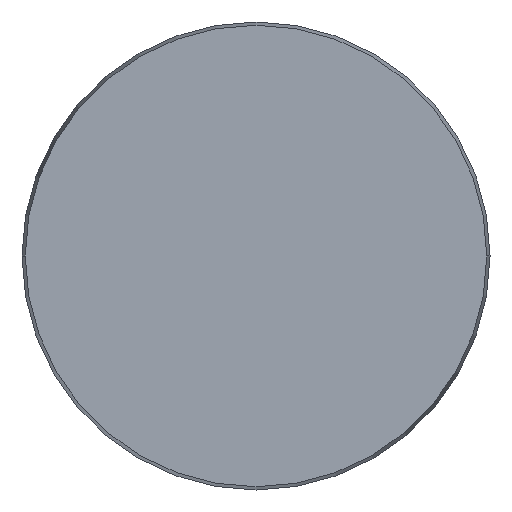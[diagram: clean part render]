
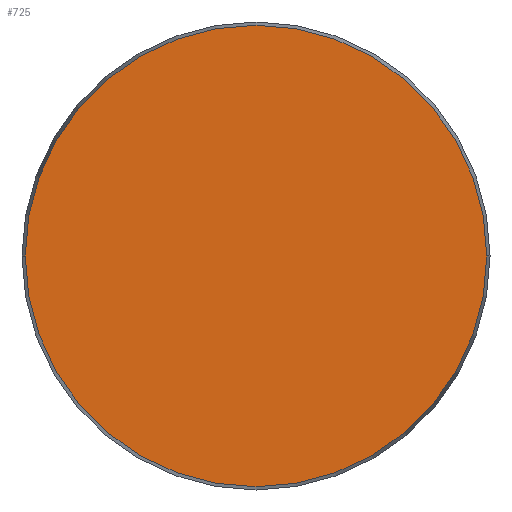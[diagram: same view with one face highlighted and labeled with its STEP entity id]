
A CAD part, front view. The second image highlights one B-rep face of the part: STEP entity #725.
In plain terms, the highlighted planar face has unit normal (0, -1, 0).
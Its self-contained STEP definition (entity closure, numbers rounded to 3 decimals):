
#50 = EDGE_CURVE ( 'NONE', #698, #179, #754, .T. ) ;
#66 = EDGE_CURVE ( 'NONE', #179, #698, #758, .T. ) ;
#123 = CARTESIAN_POINT ( 'NONE',  ( 24.65, 0., 0. ) ) ;
#128 = CARTESIAN_POINT ( 'NONE',  ( 24.65, 0., 0. ) ) ;
#147 = FACE_OUTER_BOUND ( 'NONE', #231, .T. ) ;
#149 = DIRECTION ( 'NONE',  ( 0., 1., 0. ) ) ;
#165 = PLANE ( 'NONE',  #752 ) ;
#166 = DIRECTION ( 'NONE',  ( 0., 0., 1. ) ) ;
#179 = VERTEX_POINT ( 'NONE', #180 ) ;
#180 = CARTESIAN_POINT ( 'NONE',  ( -24.65, 0., 0. ) ) ;
#231 = EDGE_LOOP ( 'NONE', ( #385, #417 ) ) ;
#277 = CARTESIAN_POINT ( 'NONE',  ( 0., 0., 0. ) ) ;
#278 = DIRECTION ( 'NONE',  ( -1., 0., 0. ) ) ;
#279 = DIRECTION ( 'NONE',  ( 0., 1., 0. ) ) ;
#287 = CARTESIAN_POINT ( 'NONE',  ( 0., 0., 0. ) ) ;
#321 = DIRECTION ( 'NONE',  ( 0., 1., 0. ) ) ;
#364 = DIRECTION ( 'NONE',  ( -1., 0., 0. ) ) ;
#385 = ORIENTED_EDGE ( 'NONE', *, *, #66, .F. ) ;
#417 = ORIENTED_EDGE ( 'NONE', *, *, #50, .F. ) ;
#698 = VERTEX_POINT ( 'NONE', #123 ) ;
#725 = ADVANCED_FACE ( '1', ( #147 ), #165, .F. ) ;
#752 = AXIS2_PLACEMENT_3D ( 'NONE', #128, #149, #166 ) ;
#754 = CIRCLE ( 'NONE', #795, 24.65 ) ;
#758 = CIRCLE ( 'NONE', #768, 24.65 ) ;
#768 = AXIS2_PLACEMENT_3D ( 'NONE', #287, #279, #278 ) ;
#795 = AXIS2_PLACEMENT_3D ( 'NONE', #277, #321, #364 ) ;
